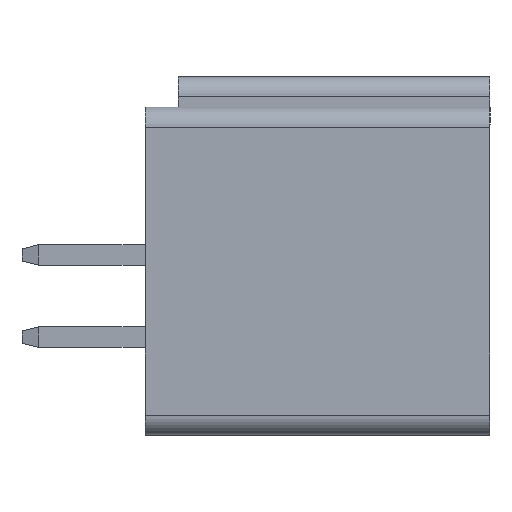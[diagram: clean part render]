
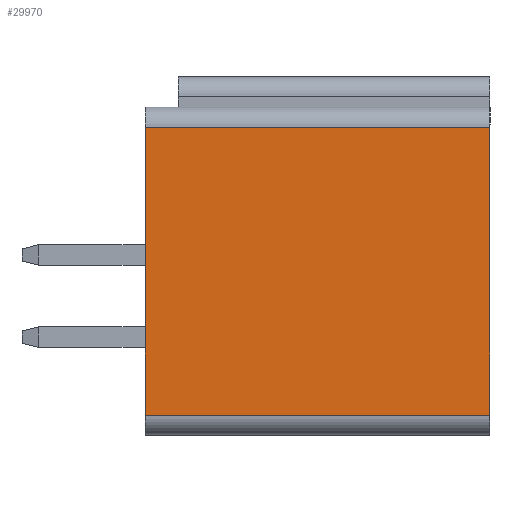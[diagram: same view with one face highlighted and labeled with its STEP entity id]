
A CAD part, left-side view. The second image highlights one B-rep face of the part: STEP entity #29970.
In plain terms, the highlighted planar face has unit normal (-1, 0, 0) as drawn and (0, 1, 0) by its records, which use the part's own axes.
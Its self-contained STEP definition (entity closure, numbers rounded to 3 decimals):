
#4110=CARTESIAN_POINT('',(285.284,66.111,
8.766));
#4120=VERTEX_POINT('',#4110);
#4170=CARTESIAN_POINT('',(285.284,66.111,0.));
#4180=DIRECTION('',(0.,0.,-1.));
#4190=VECTOR('',#4180,1.);
#4200=LINE('',#4170,#4190);
#4210=CARTESIAN_POINT('',(285.284,66.111,
1.766));
#4220=VERTEX_POINT('',#4210);
#4230=EDGE_CURVE('',#4120,#4220,#4200,.T.);
#25320=CARTESIAN_POINT('',(276.884,66.111,
8.766));
#25330=VERTEX_POINT('',#25320);
#25360=CARTESIAN_POINT('',(0.,66.111,
8.766));
#25370=DIRECTION('',(1.,0.,0.));
#25380=VECTOR('',#25370,1.);
#25390=LINE('',#25360,#25380);
#25400=EDGE_CURVE('',#25330,#4120,#25390,.T.);
#29740=CARTESIAN_POINT('',(277.554,66.111,
8.736));
#29750=DIRECTION('',(0.,-1.,0.));
#29760=DIRECTION('',(0.,0.,-1.));
#29770=AXIS2_PLACEMENT_3D('',#29740,#29750,#29760);
#29780=PLANE('',#29770);
#29790=ORIENTED_EDGE('',*,*,#25400,.T.);
#29800=CARTESIAN_POINT('',(276.884,66.111,
0.));
#29810=DIRECTION('',(0.,0.,1.));
#29820=VECTOR('',#29810,1.);
#29830=LINE('',#29800,#29820);
#29840=CARTESIAN_POINT('',(276.884,66.111,
1.766));
#29850=VERTEX_POINT('',#29840);
#29860=EDGE_CURVE('',#29850,#25330,#29830,.T.);
#29870=ORIENTED_EDGE('',*,*,#29860,.T.);
#29880=CARTESIAN_POINT('',(0.,66.111,
1.766));
#29890=DIRECTION('',(1.,0.,0.));
#29900=VECTOR('',#29890,1.);
#29910=LINE('',#29880,#29900);
#29920=EDGE_CURVE('',#29850,#4220,#29910,.T.);
#29930=ORIENTED_EDGE('',*,*,#29920,.F.);
#29940=ORIENTED_EDGE('',*,*,#4230,.T.);
#29950=EDGE_LOOP('',(#29940,#29930,#29870,#29790));
#29960=FACE_OUTER_BOUND('',#29950,.T.);
#29970=ADVANCED_FACE('',(#29960),#29780,.F.);
